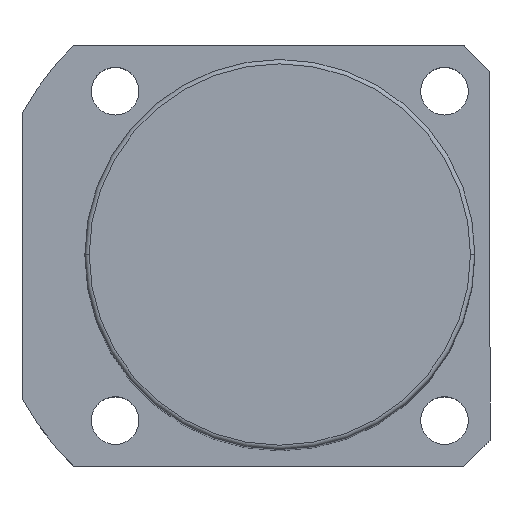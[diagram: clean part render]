
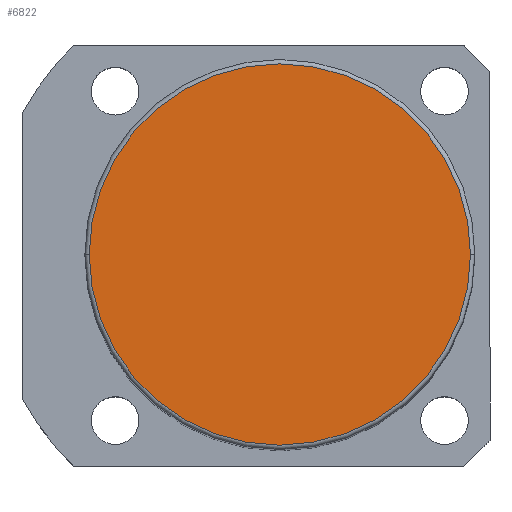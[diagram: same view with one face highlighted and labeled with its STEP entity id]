
A CAD part, top view. The second image highlights one B-rep face of the part: STEP entity #6822.
In plain terms, the highlighted planar face has unit normal (0, 0, 1).
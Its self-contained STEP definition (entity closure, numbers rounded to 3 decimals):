
#100 = CARTESIAN_POINT ( 'NONE',  ( 0., 0., 196.5 ) ) ;
#286 = CARTESIAN_POINT ( 'NONE',  ( 0., 0., 196.5 ) ) ;
#465 = FACE_OUTER_BOUND ( 'NONE', #4278, .T. ) ;
#593 = AXIS2_PLACEMENT_3D ( 'NONE', #286, #847, #4764 ) ;
#658 = DIRECTION ( 'NONE',  ( 1., 0., 0. ) ) ;
#847 = DIRECTION ( 'NONE',  ( 0., 0., 1. ) ) ;
#1071 = CARTESIAN_POINT ( 'NONE',  ( 0., 0., 196.5 ) ) ;
#1324 = CARTESIAN_POINT ( 'NONE',  ( 44., 0., 196.5 ) ) ;
#1489 = AXIS2_PLACEMENT_3D ( 'NONE', #100, #3995, #658 ) ;
#1635 = CARTESIAN_POINT ( 'NONE',  ( -44., 0., 196.5 ) ) ;
#1640 = DIRECTION ( 'NONE',  ( 1., 0., 0. ) ) ;
#1792 = ORIENTED_EDGE ( 'NONE', *, *, #6651, .T. ) ;
#2330 = CIRCLE ( 'NONE', #2435, 44. ) ;
#2435 = AXIS2_PLACEMENT_3D ( 'NONE', #1071, #4989, #1640 ) ;
#3347 = ORIENTED_EDGE ( 'NONE', *, *, #4191, .T. ) ;
#3625 = PLANE ( 'NONE',  #593 ) ;
#3995 = DIRECTION ( 'NONE',  ( 0., 0., 1. ) ) ;
#4115 = CIRCLE ( 'NONE', #1489, 44. ) ;
#4191 = EDGE_CURVE ( 'NONE', #4772, #4448, #2330, .T. ) ;
#4278 = EDGE_LOOP ( 'NONE', ( #3347, #1792 ) ) ;
#4448 = VERTEX_POINT ( 'NONE', #1635 ) ;
#4764 = DIRECTION ( 'NONE',  ( 1., 0., 0. ) ) ;
#4772 = VERTEX_POINT ( 'NONE', #1324 ) ;
#4989 = DIRECTION ( 'NONE',  ( 0., 0., 1. ) ) ;
#6651 = EDGE_CURVE ( 'NONE', #4448, #4772, #4115, .T. ) ;
#6822 = ADVANCED_FACE ( 'NONE', ( #465 ), #3625, .T. ) ;
